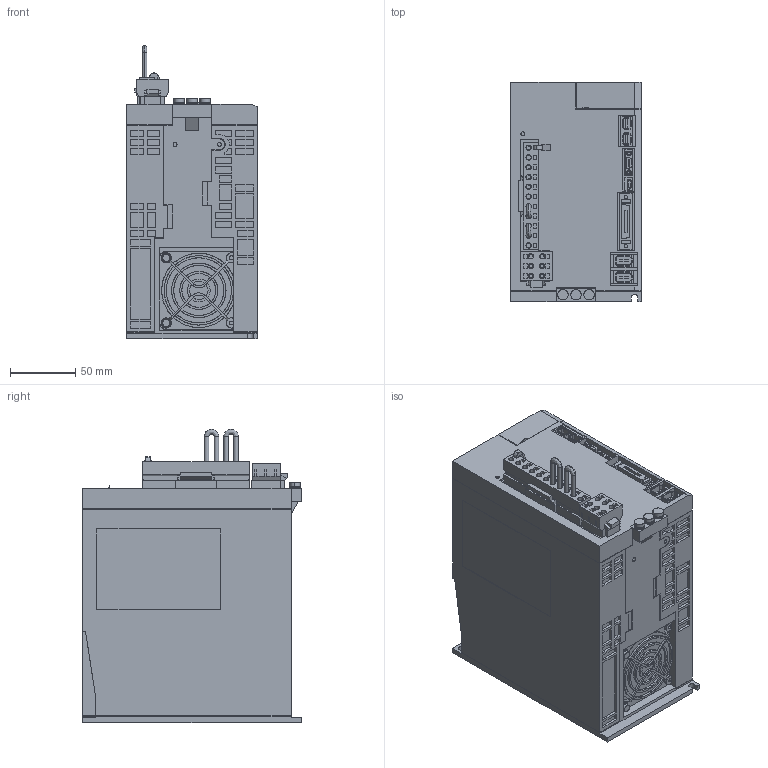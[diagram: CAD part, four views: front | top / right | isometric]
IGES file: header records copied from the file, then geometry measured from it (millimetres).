
Start section: SolidWorks IGES file using analytic representation for surfaces
Global section: file name: D:\YASKAWA\sgd7w_7r6a20a.IGS; native system: SolidWorks 2006 by SolidWorks Corporation; preprocessor: SolidWorks 2006 by SolidWorks Corporation; author: yamanouchi; date: 140306.133217; units: millimetre
Bounding box: 100 x 168 x 225 mm (x, y, z)
Surface area: 179233.8 mm2 (no closed solid volume)
Topology: 0 solids, 0 shells, 1939 faces, 15423 edges, 15423 vertices
Faces by surface type: bspline 1725, revolution 214
